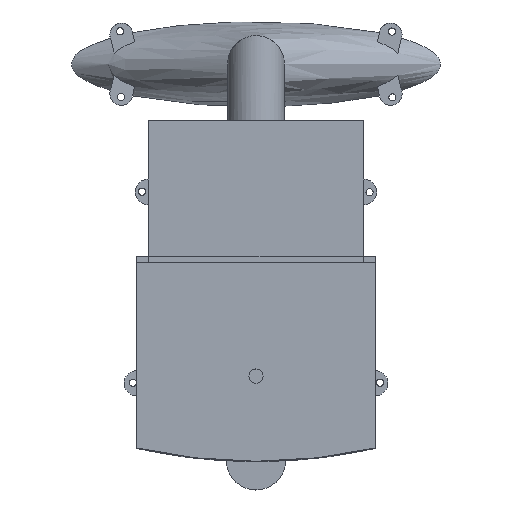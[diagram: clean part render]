
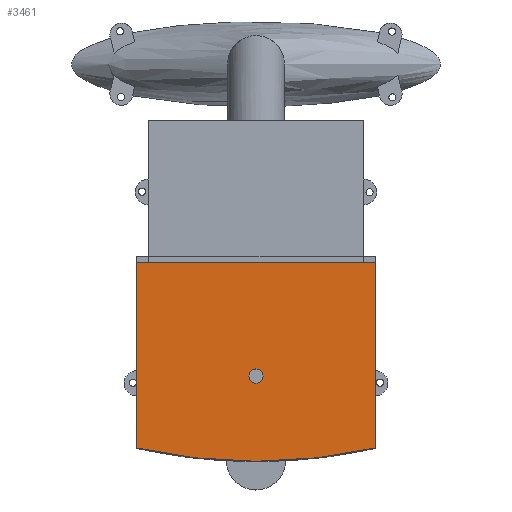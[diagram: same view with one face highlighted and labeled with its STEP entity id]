
A CAD part, top view. The second image highlights one B-rep face of the part: STEP entity #3461.
In plain terms, the highlighted planar face has unit normal (0, 0, 1).
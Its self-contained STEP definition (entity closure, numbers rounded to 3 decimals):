
#185=FACE_BOUND('',#572,.T.);
#241=PLANE('',#3735);
#355=FACE_OUTER_BOUND('',#571,.T.);
#571=EDGE_LOOP('',(#2525,#2526,#2527,#2528));
#572=EDGE_LOOP('',(#2529));
#814=LINE('',#5142,#1098);
#824=LINE('',#5168,#1108);
#826=LINE('',#5173,#1110);
#1098=VECTOR('',#4195,10.);
#1108=VECTOR('',#4219,10.);
#1110=VECTOR('',#4227,10.);
#1354=CIRCLE('',#3709,2.5);
#1366=CIRCLE('',#3733,190.);
#1503=VERTEX_POINT('',#5102);
#1515=VERTEX_POINT('',#5139);
#1516=VERTEX_POINT('',#5141);
#1524=VERTEX_POINT('',#5165);
#1525=VERTEX_POINT('',#5167);
#1866=EDGE_CURVE('',#1503,#1503,#1354,.T.);
#1885=EDGE_CURVE('',#1516,#1515,#814,.T.);
#1898=EDGE_CURVE('',#1525,#1524,#824,.T.);
#1900=EDGE_CURVE('',#1515,#1525,#1366,.T.);
#1901=EDGE_CURVE('',#1524,#1516,#826,.T.);
#2525=ORIENTED_EDGE('',*,*,#1901,.T.);
#2526=ORIENTED_EDGE('',*,*,#1885,.T.);
#2527=ORIENTED_EDGE('',*,*,#1900,.T.);
#2528=ORIENTED_EDGE('',*,*,#1898,.T.);
#2529=ORIENTED_EDGE('',*,*,#1866,.T.);
#3461=ADVANCED_FACE('',(#355,#185),#241,.T.);
#3709=AXIS2_PLACEMENT_3D('',#5103,#4153,#4154);
#3733=AXIS2_PLACEMENT_3D('',#5171,#4223,#4224);
#3735=AXIS2_PLACEMENT_3D('',#5174,#4228,#4229);
#4153=DIRECTION('center_axis',(0.,0.,-1.));
#4154=DIRECTION('ref_axis',(-1.,0.,0.));
#4195=DIRECTION('',(0.,-1.,0.));
#4219=DIRECTION('',(0.,1.,0.));
#4223=DIRECTION('center_axis',(0.,0.,1.));
#4224=DIRECTION('ref_axis',(1.,0.,0.));
#4227=DIRECTION('',(-1.,0.,0.));
#4228=DIRECTION('center_axis',(0.,0.,1.));
#4229=DIRECTION('ref_axis',(1.,0.,0.));
#5102=CARTESIAN_POINT('',(2.5,-160.,84.));
#5103=CARTESIAN_POINT('Origin',(0.,-160.,84.));
#5139=CARTESIAN_POINT('',(-42.,-185.3,84.));
#5141=CARTESIAN_POINT('',(-42.,-120.,84.));
#5142=CARTESIAN_POINT('',(-42.,-120.,84.));
#5165=CARTESIAN_POINT('',(42.,-120.,84.));
#5167=CARTESIAN_POINT('',(42.,-185.3,84.));
#5168=CARTESIAN_POINT('',(42.,-120.,84.));
#5171=CARTESIAN_POINT('Origin',(0.,0.,84.));
#5173=CARTESIAN_POINT('',(-42.,-120.,84.));
#5174=CARTESIAN_POINT('Origin',(0.,-155.,84.));
